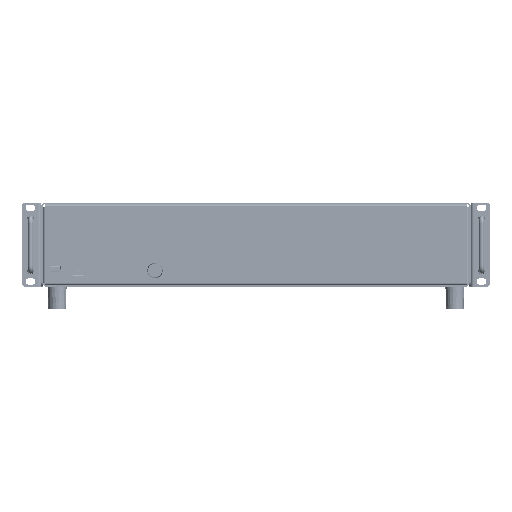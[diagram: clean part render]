
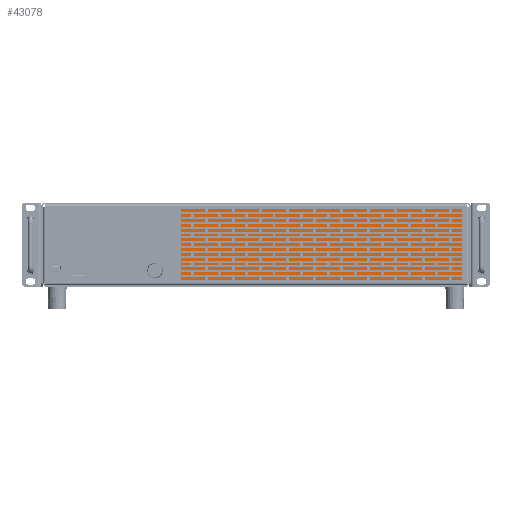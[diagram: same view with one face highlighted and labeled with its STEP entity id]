
A CAD part, front view. The second image highlights one B-rep face of the part: STEP entity #43078.
In plain terms, the highlighted planar face has unit normal (0, -1, 0).
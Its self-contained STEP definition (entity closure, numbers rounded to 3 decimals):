
#43078=ADVANCED_FACE('',(#88387),#88388,.T.);
#88387=FACE_OUTER_BOUND('',#152248,.T.);
#88388=PLANE('',#152249);
#152248=EDGE_LOOP('',(#276432,#276433,#276434,#276435));
#152249=AXIS2_PLACEMENT_3D('',#276436,#276437,#276438);
#276432=ORIENTED_EDGE('',*,*,#330184,.T.);
#276433=ORIENTED_EDGE('',*,*,#330185,.T.);
#276434=ORIENTED_EDGE('',*,*,#330186,.T.);
#276435=ORIENTED_EDGE('',*,*,#330187,.T.);
#276436=CARTESIAN_POINT('',(263.278,0.25,42.021));
#276437=DIRECTION('',(0.0,-1.0,0.0));
#276438=DIRECTION('',(-1.0,0.0,0.0));
#330184=EDGE_CURVE('',#406829,#406830,#406831,.T.);
#330185=EDGE_CURVE('',#406830,#406832,#406833,.T.);
#330186=EDGE_CURVE('',#406832,#406834,#406835,.T.);
#330187=EDGE_CURVE('',#406834,#406829,#406836,.T.);
#406829=VERTEX_POINT('',#517752);
#406830=VERTEX_POINT('',#517753);
#406831=LINE('',#517754,#517755);
#406832=VERTEX_POINT('',#517756);
#406833=LINE('',#517757,#517758);
#406834=VERTEX_POINT('',#517759);
#406835=LINE('',#517760,#517761);
#406836=LINE('',#517762,#517763);
#517752=CARTESIAN_POINT('',(92.95,0.25,80.5));
#517753=CARTESIAN_POINT('',(92.95,0.25,3.542));
#517754=CARTESIAN_POINT('',(92.95,0.25,42.021));
#517755=VECTOR('',#569917,1.0);
#517756=CARTESIAN_POINT('',(433.606,0.25,3.542));
#517757=CARTESIAN_POINT('',(263.278,0.25,3.542));
#517758=VECTOR('',#569918,1.0);
#517759=CARTESIAN_POINT('',(433.606,0.25,80.5));
#517760=CARTESIAN_POINT('',(433.606,0.25,42.021));
#517761=VECTOR('',#569919,1.0);
#517762=CARTESIAN_POINT('',(263.278,0.25,80.5));
#517763=VECTOR('',#569920,1.0);
#569917=DIRECTION('',(0.0,0.0,-1.0));
#569918=DIRECTION('',(1.0,0.0,0.0));
#569919=DIRECTION('',(0.0,0.0,1.0));
#569920=DIRECTION('',(-1.0,0.0,0.0));
